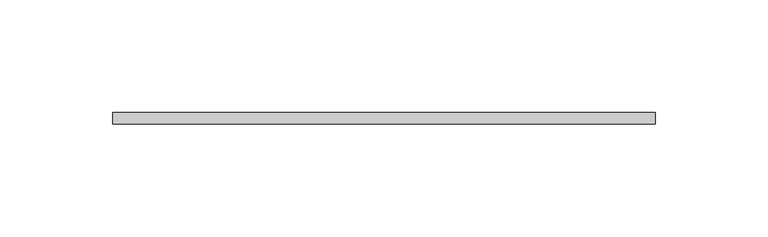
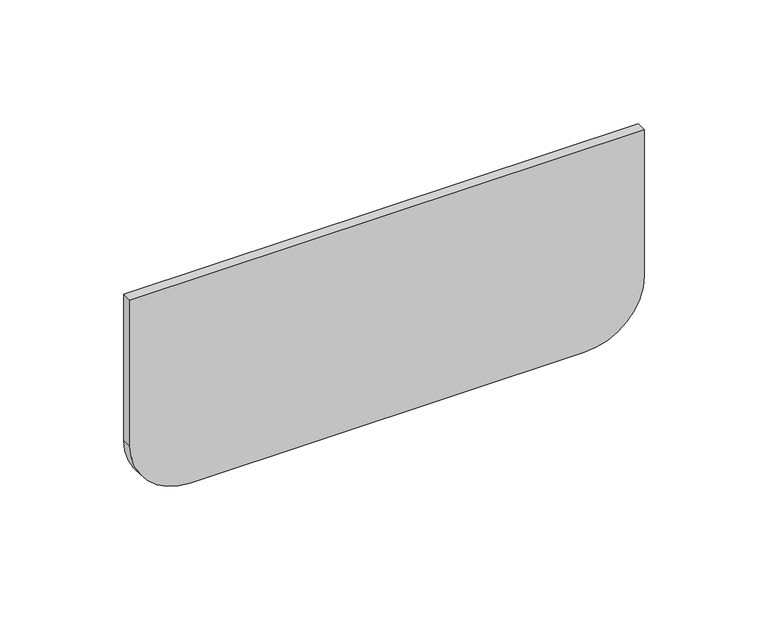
"""IFC4 building model written with IfcOpenShell, lengths in millimetres: cable carrier fitting geometry, CCT_Hyperline_FBTR-TTR Заглушка для оптического лотка : Заглушка для оптического лотка."""

from ifc_helpers import new_model, si_unit, point, frame, frame_2d, origin, place, context, project, spatial, polyline, circle_curve, trimmed, segment, composite_curve, outline, extrude, source, transform, mapped, element, save


def cable_carrier_fitting_61f211ba(model_context):
    return source(origin(), model_context, "Body", "SweptSolid", [
        extrude(outline(composite_curve([segment(trimmed(circle_curve(frame_2d((-22.0, -92.0)), 28.0), [point((-22.0, -120.0))], [point((-50.0, -92.0))], False, "CARTESIAN"), True, "CONTINUOUS"), segment(polyline([(-50.0, -92.0), (-50.0, 92.0)]), True, "CONTINUOUS"), segment(trimmed(circle_curve(frame_2d((-22.0, 92.0)), 28.0), [point((-50.0, 92.0))], [point((-22.0, 120.0))], False, "CARTESIAN"), True, "CONTINUOUS"), segment(polyline([(-22.0, 120.0), (50.0, 120.0), (50.0, -120.0), (-22.0, -120.0)]), True, "CONTINUOUS")], self_intersect=False)), frame((0.0, -2.5, 0.0), z_axis=(0.0, 1.0, 0.0), x_axis=(0.0, 0.0, 1.0)), (0.0, 0.0, 1.0), 5.0),
    ])


if __name__ == "__main__":
    model = new_model("IFC4")
    model_context = context("Model", 3, world=origin())
    ifc_project = project(units=[si_unit("LENGTHUNIT", "METRE", prefix="MILLI")], contexts=[model_context])
    site = spatial("IfcSite", under=ifc_project)
    building = spatial("IfcBuilding", under=site)
    placement = place(None, origin())
    cable_carrier_fitting_shape = cable_carrier_fitting_61f211ba(model_context)
    element("IfcCableCarrierFitting", 1, ObjectType="CCT_Hyperline_FBTR-TTR Заглушка для оптического лотка : Заглушка для оптического лотка", at=placement, inside=building, context=model_context, shape_type="MappedRepresentation", body=[
        mapped(cable_carrier_fitting_shape, transform((0.0, 0.0, 0.0), x_axis=(1.0, 0.0, 0.0), y_axis=(0.0, 1.0, 0.0), z_axis=(0.0, 0.0, 1.0))),
    ])
    save(model, "model.ifc")
